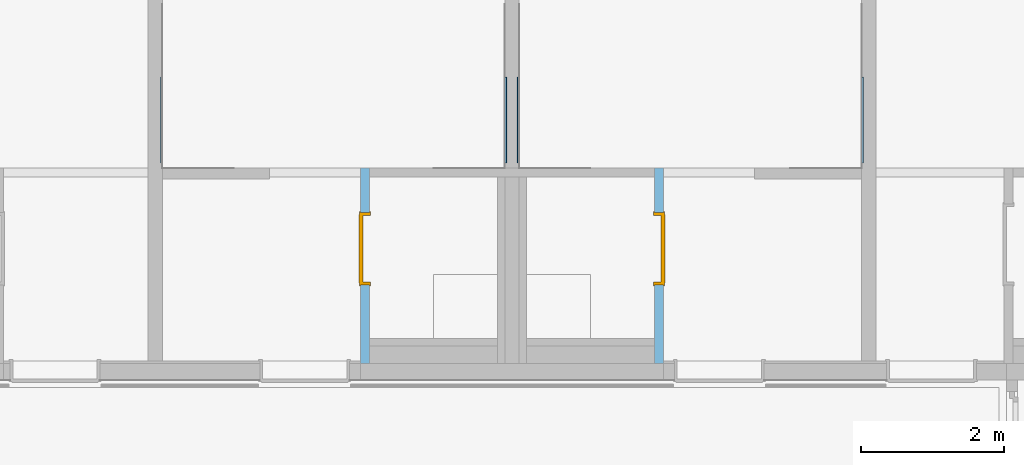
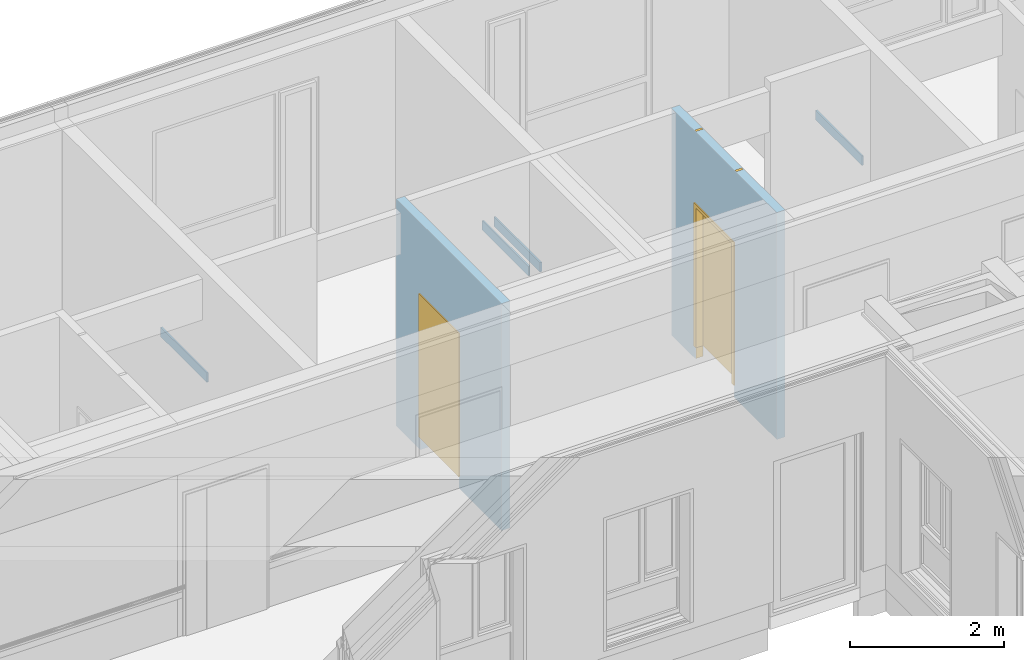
# One storey, part 112 of 207: 4 walls, 2 doors, 2 openings, plus 2 elements that do not belong to this part.
"""IFC4 building model written with IfcOpenShell, lengths in metres."""

from ifc_helpers import new_model, entity, si_unit, converted_unit, derived_unit, frame, frame_2d, origin, origin_with_axes, place, context, subcontext, project, spatial, polyline, rectangle, outline, extrude, faceted_brep, source, transform, mapped, material, type_object, element, fill, save


model = new_model("IFC4")

# Units and contexts
model_context = context("Model", 3, precision=1e-05, world=origin())
body_context = subcontext(model_context, "Body", "Model", "MODEL_VIEW")
ifc_project = project(units=[si_unit("LENGTHUNIT", "METRE"), si_unit("AREAUNIT", "SQUARE_METRE"), si_unit("VOLUMEUNIT", "CUBIC_METRE"), si_unit("MASSUNIT", "GRAM", prefix="KILO"), converted_unit("PLANEANGLEUNIT", "DEGREE", entity("IfcPlaneAngleMeasure", 0.0174532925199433), si_unit("PLANEANGLEUNIT", "RADIAN"), dimensions=[0, 0, 0, 0, 0, 0, 0]), derived_unit("THERMALTRANSMITTANCEUNIT", [(si_unit("POWERUNIT", "WATT"), 1), (si_unit("THERMODYNAMICTEMPERATUREUNIT", "KELVIN"), -1), (si_unit("LENGTHUNIT", "METRE"), -2)]), derived_unit("VOLUMETRICFLOWRATEUNIT", [(si_unit("LENGTHUNIT", "METRE"), 3), (converted_unit("TIMEUNIT", "hour", entity("IfcTimeMeasure", 3600.0), si_unit("TIMEUNIT", "SECOND"), dimensions=[0, 0, 1, 0, 0, 0, 0]), -1), (si_unit("LENGTHUNIT", "METRE"), -1)])], contexts=[model_context])

# Site, building, storey
site_placement = place(None, origin())
site = spatial("IfcSite", under=ifc_project, at=site_placement, Name="Psychiatrie Neubau Wunstorf", CompositionType="ELEMENT")
building_placement = place(site_placement, origin())
building = spatial("IfcBuilding", under=site, at=building_placement, Name="Neubau H2 Stationsgebäude", CompositionType="ELEMENT")
storey_placement = place(building_placement, frame((0.0, 0.0, -0.2)))
storey = spatial("IfcBuildingStorey", under=building, at=storey_placement, Name="H2 Ebene 0", CompositionType="ELEMENT", Elevation=-0.2)

# Wall, opening, door
ifc_material_1 = material(Name="WI-LB")
wall_1_placement = place(storey_placement, frame((22.875, 27.0895, 0.0), z_axis=(0.0, 0.0, 1.0), x_axis=(0.0, -1.0, 0.0)))
wall_1 = element("IfcWall", 1, at=wall_1_placement, inside=storey, material=ifc_material_1, context=body_context, shape_type="SweptSolid", body=[
    extrude(rectangle(XDim=2.73999999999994, YDim=0.125, at=frame_2d((1.36999999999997, 0.0625), x_axis=(1.0, 0.0))), origin_with_axes(), (0.0, 0.0, 1.0), 3.6),
])
opening_1_placement = place(wall_1_placement, frame((1.635, 0.125, 0.0), z_axis=(0.0, -1.0, 0.0), x_axis=(0.0, 0.0, 1.0)))
opening_1 = element("IfcOpeningElement", 2, at=opening_1_placement, cuts=wall_1, Name="Türöffnung", ObjectType="Opening", context=body_context, shape_type="SweptSolid", body=[
    extrude(outline(polyline([(2.46, 1.01), (2.46, 0.0), (0.0, 0.0), (0.0, 1.01), (2.46, 1.01)])), origin_with_axes(), (0.0, 0.0, 1.0), 0.125),
])
ifc_material_2 = material(Name="TI-1F-UZ-D-N")
door_type_1 = type_object("IfcDoorType", Name="SMT", OperationType="SINGLE_SWING_RIGHT", ParameterTakesPrecedence=False, PredefinedType="DOOR")
shared_shape_1 = source(origin_with_axes(), body_context, "Body", "Brep", [
    faceted_brep([(-0.0400000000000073, 0.0125000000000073, 0.0), (0.0, 0.0125000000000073, 0.0), (0.0, 0.112500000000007, 0.0), (-0.0400000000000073, 0.112500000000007, 0.0), (-0.0400000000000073, 0.112500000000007, 3.6), (0.0, 0.112500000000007, 3.6), (0.0, 0.0125000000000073, 3.6), (-0.0400000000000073, 0.0125000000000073, 3.6)], [[[0, 1, 2, 3]], [[4, 5, 6, 7]], [[3, 4, 7, 0]], [[2, 5, 4, 3]], [[1, 6, 5, 2]], [[0, 7, 6, 1]]], orient=[[False], [False], [False], [False], [False], [False]]),
    faceted_brep([(1.00999999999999, 0.0125000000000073, 0.0), (1.04999999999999, 0.0125000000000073, 0.0), (1.04999999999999, 0.112500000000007, 0.0), (1.00999999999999, 0.112500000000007, 0.0), (1.00999999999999, 0.112500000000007, 3.6), (1.04999999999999, 0.112500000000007, 3.6), (1.04999999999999, 0.0125000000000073, 3.6), (1.00999999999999, 0.0125000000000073, 3.6)], [[[0, 1, 2, 3]], [[4, 5, 6, 7]], [[3, 4, 7, 0]], [[2, 5, 4, 3]], [[1, 6, 5, 2]], [[0, 7, 6, 1]]], orient=[[False], [False], [False], [False], [False], [False]]),
    faceted_brep([(0.0, 0.0125000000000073, 2.46), (1.00999999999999, 0.0125000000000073, 2.46), (1.00999999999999, 0.112500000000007, 2.46), (0.0, 0.112500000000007, 2.46), (0.0, 0.112500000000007, 2.5), (1.00999999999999, 0.112500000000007, 2.5), (1.00999999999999, 0.0125000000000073, 2.5), (0.0, 0.0125000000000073, 2.5)], [[[0, 1, 2, 3]], [[4, 5, 6, 7]], [[3, 4, 7, 0]], [[2, 5, 4, 3]], [[1, 6, 5, 2]], [[0, 7, 6, 1]]], orient=[[False], [False], [False], [False], [False], [False]]),
])
shared_shape_2 = source(origin_with_axes(), body_context, "Body", "Brep", [
    faceted_brep([(0.0, -0.0149999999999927, 2.46), (0.0399999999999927, -0.0149999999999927, 2.46), (0.0399999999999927, -0.0149999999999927, 0.2), (0.0, -0.0149999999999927, 0.2), (0.0, 0.140000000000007, 0.2), (0.0399999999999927, 0.140000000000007, 0.2), (0.0399999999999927, 0.140000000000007, 2.46), (0.0, 0.140000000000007, 2.46)], [[[0, 1, 2, 3]], [[4, 5, 6, 7]], [[3, 4, 7, 0]], [[2, 5, 4, 3]], [[1, 6, 5, 2]], [[0, 7, 6, 1]]], orient=[[False], [False], [False], [False], [False], [False]]),
    faceted_brep([(0.0, -0.0149999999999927, 2.475), (0.0, -0.0149999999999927, 0.2), (-0.0150000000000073, -0.0149999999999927, 0.2), (-0.0150000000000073, -0.0149999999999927, 2.475), (0.0, 0.0, 0.2), (0.0, 0.0, 2.475), (-0.0150000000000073, 0.0, 2.475), (-0.0150000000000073, 0.0, 0.2)], [[[0, 1, 2, 3]], [[4, 5, 6, 7]], [[1, 0, 5, 4]], [[2, 1, 4, 7]], [[3, 2, 7, 6]], [[0, 3, 6, 5]]], orient=[[False], [False], [False], [False], [False], [False]]),
    faceted_brep([(0.0, 0.125000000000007, 2.475), (0.0, 0.125000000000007, 0.2), (-0.0150000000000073, 0.125000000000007, 0.2), (-0.0150000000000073, 0.125000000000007, 2.475), (0.0, 0.140000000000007, 0.2), (0.0, 0.140000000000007, 2.475), (-0.0150000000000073, 0.140000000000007, 2.475), (-0.0150000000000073, 0.140000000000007, 0.2)], [[[0, 1, 2, 3]], [[4, 5, 6, 7]], [[1, 0, 5, 4]], [[2, 1, 4, 7]], [[3, 2, 7, 6]], [[0, 3, 6, 5]]], orient=[[False], [False], [False], [False], [False], [False]]),
    faceted_brep([(0.969999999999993, -0.0149999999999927, 2.46), (1.00999999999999, -0.0149999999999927, 2.46), (1.00999999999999, -0.0149999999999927, 0.2), (0.969999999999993, -0.0149999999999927, 0.2), (0.969999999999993, 0.140000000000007, 0.2), (1.00999999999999, 0.140000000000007, 0.2), (1.00999999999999, 0.140000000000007, 2.46), (0.969999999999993, 0.140000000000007, 2.46)], [[[0, 1, 2, 3]], [[4, 5, 6, 7]], [[3, 4, 7, 0]], [[2, 5, 4, 3]], [[1, 6, 5, 2]], [[0, 7, 6, 1]]], orient=[[False], [False], [False], [False], [False], [False]]),
    faceted_brep([(1.00999999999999, -0.0149999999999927, 2.475), (1.02499999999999, -0.0149999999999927, 2.475), (1.02499999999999, -0.0149999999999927, 0.2), (1.00999999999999, -0.0149999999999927, 0.2), (1.00999999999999, 0.0, 0.2), (1.02499999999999, 0.0, 0.2), (1.02499999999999, 0.0, 2.475), (1.00999999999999, 0.0, 2.475)], [[[0, 1, 2, 3]], [[4, 5, 6, 7]], [[3, 4, 7, 0]], [[2, 5, 4, 3]], [[1, 6, 5, 2]], [[0, 7, 6, 1]]], orient=[[False], [False], [False], [False], [False], [False]]),
    faceted_brep([(1.00999999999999, 0.125000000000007, 2.475), (1.02499999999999, 0.125000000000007, 2.475), (1.02499999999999, 0.125000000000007, 0.2), (1.00999999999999, 0.125000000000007, 0.2), (1.00999999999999, 0.140000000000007, 0.2), (1.02499999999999, 0.140000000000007, 0.2), (1.02499999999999, 0.140000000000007, 2.475), (1.00999999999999, 0.140000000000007, 2.475)], [[[0, 1, 2, 3]], [[4, 5, 6, 7]], [[3, 4, 7, 0]], [[2, 5, 4, 3]], [[1, 6, 5, 2]], [[0, 7, 6, 1]]], orient=[[False], [False], [False], [False], [False], [False]]),
    faceted_brep([(0.0399999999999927, -0.0149999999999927, 2.46), (0.969999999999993, -0.0149999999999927, 2.46), (0.969999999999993, -0.0149999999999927, 2.42), (0.0399999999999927, -0.0149999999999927, 2.42), (0.0399999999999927, 0.140000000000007, 2.42), (0.969999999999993, 0.140000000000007, 2.42), (0.969999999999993, 0.140000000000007, 2.46), (0.0399999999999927, 0.140000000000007, 2.46)], [[[0, 1, 2, 3]], [[4, 5, 6, 7]], [[3, 4, 7, 0]], [[2, 5, 4, 3]], [[1, 6, 5, 2]], [[0, 7, 6, 1]]], orient=[[False], [False], [False], [False], [False], [False]]),
    faceted_brep([(0.0, -0.0149999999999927, 2.475), (1.00999999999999, -0.0149999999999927, 2.475), (1.00999999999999, -0.0149999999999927, 2.46), (0.0, -0.0149999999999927, 2.46), (0.0, 0.0, 2.46), (1.00999999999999, 0.0, 2.46), (1.00999999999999, 0.0, 2.475), (0.0, 0.0, 2.475)], [[[0, 1, 2, 3]], [[4, 5, 6, 7]], [[3, 4, 7, 0]], [[2, 5, 4, 3]], [[1, 6, 5, 2]], [[0, 7, 6, 1]]], orient=[[False], [False], [False], [False], [False], [False]]),
    faceted_brep([(0.0, 0.125000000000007, 2.475), (1.00999999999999, 0.125000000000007, 2.475), (1.00999999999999, 0.125000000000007, 2.46), (0.0, 0.125000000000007, 2.46), (0.0, 0.140000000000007, 2.46), (1.00999999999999, 0.140000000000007, 2.46), (1.00999999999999, 0.140000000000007, 2.475), (0.0, 0.140000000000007, 2.475)], [[[0, 1, 2, 3]], [[4, 5, 6, 7]], [[3, 4, 7, 0]], [[2, 5, 4, 3]], [[1, 6, 5, 2]], [[0, 7, 6, 1]]], orient=[[False], [False], [False], [False], [False], [False]]),
    faceted_brep([(0.0249999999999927, 0.0910000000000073, 2.435), (0.984999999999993, 0.0910000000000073, 2.435), (0.984999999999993, 0.0910000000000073, 0.2), (0.0249999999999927, 0.0910000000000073, 0.2), (0.0249999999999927, 0.141000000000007, 0.2), (0.984999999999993, 0.141000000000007, 0.2), (0.984999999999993, 0.141000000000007, 2.435), (0.0249999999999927, 0.141000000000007, 2.435)], [[[0, 1, 2, 3]], [[4, 5, 6, 7]], [[3, 4, 7, 0]], [[2, 5, 4, 3]], [[1, 6, 5, 2]], [[0, 7, 6, 1]]], orient=[[False], [False], [False], [False], [False], [False]]),
])
door_1_placement = place(opening_1_placement, frame((0.0, 0.0, 0.0), z_axis=(1.0, 0.0, 0.0), x_axis=(0.0, 1.0, 0.0)))
door_1 = element("IfcDoor", 3, at=door_1_placement, inside=storey, type_object=door_type_1, material=ifc_material_2, Name="SMT", OverallHeight=2.46, OverallWidth=1.01, context=body_context, shape_type="MappedRepresentation", body=[
    mapped(shared_shape_1, transform((0.0, 0.0, 0.0), x_axis=(1.0, 0.0, 0.0), y_axis=(0.0, 1.0, 0.0), z_axis=(0.0, 0.0, 1.0), scale=1.0)),
    mapped(shared_shape_2, transform((0.0, 0.0, 0.0), x_axis=(1.0, 0.0, 0.0), y_axis=(0.0, 1.0, 0.0), z_axis=(0.0, 0.0, 1.0), scale=1.0)),
])
fill(opening_1, door_1)

ifc_material_3 = material(Name="WI-LB")
wall_2_placement = place(storey_placement, frame((27.0, 27.0895, 0.0), z_axis=(0.0, 0.0, 1.0), x_axis=(0.0, -1.0, 0.0)))
wall_2 = element("IfcWall", 4, at=wall_2_placement, inside=storey, material=ifc_material_3, context=body_context, shape_type="SweptSolid", body=[
    extrude(rectangle(XDim=2.73999999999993, YDim=0.125, at=frame_2d((1.36999999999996, 0.0625), x_axis=(1.0, 0.0))), origin_with_axes(), (0.0, 0.0, 1.0), 3.6),
])
opening_2_placement = place(wall_2_placement, frame((0.625, 0.0, 0.0), z_axis=(0.0, 1.0, 0.0), x_axis=(0.0, 0.0, 1.0)))
opening_2 = element("IfcOpeningElement", 5, at=opening_2_placement, cuts=wall_2, Name="Türöffnung", ObjectType="Opening", context=body_context, shape_type="SweptSolid", body=[
    extrude(outline(polyline([(2.46, 1.01), (2.46, 0.0), (0.0, 0.0), (0.0, 1.01), (2.46, 1.01)])), origin_with_axes(), (0.0, 0.0, 1.0), 0.125),
])
ifc_material_4 = material(Name="TI-1F-UZ-D-N")
door_type_2 = type_object("IfcDoorType", Name="SMT", OperationType="SINGLE_SWING_RIGHT", ParameterTakesPrecedence=False, PredefinedType="DOOR")
shared_shape_3 = source(origin_with_axes(), body_context, "Body", "Brep", [
    faceted_brep([(-0.0399999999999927, 0.0124999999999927, 0.0), (0.0, 0.0124999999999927, 0.0), (0.0, 0.112499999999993, 0.0), (-0.0399999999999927, 0.112499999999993, 0.0), (-0.0399999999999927, 0.112499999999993, 3.6), (0.0, 0.112499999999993, 3.6), (0.0, 0.0124999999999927, 3.6), (-0.0399999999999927, 0.0124999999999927, 3.6)], [[[0, 1, 2, 3]], [[4, 5, 6, 7]], [[3, 4, 7, 0]], [[2, 5, 4, 3]], [[1, 6, 5, 2]], [[0, 7, 6, 1]]], orient=[[False], [False], [False], [False], [False], [False]]),
    faceted_brep([(1.01000000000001, 0.0124999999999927, 0.0), (1.05000000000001, 0.0124999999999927, 0.0), (1.05000000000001, 0.112499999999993, 0.0), (1.01000000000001, 0.112499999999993, 0.0), (1.01000000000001, 0.112499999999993, 3.6), (1.05000000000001, 0.112499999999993, 3.6), (1.05000000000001, 0.0124999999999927, 3.6), (1.01000000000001, 0.0124999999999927, 3.6)], [[[0, 1, 2, 3]], [[4, 5, 6, 7]], [[3, 4, 7, 0]], [[2, 5, 4, 3]], [[1, 6, 5, 2]], [[0, 7, 6, 1]]], orient=[[False], [False], [False], [False], [False], [False]]),
    faceted_brep([(0.0, 0.0124999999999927, 2.46), (1.01000000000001, 0.0124999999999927, 2.46), (1.01000000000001, 0.112499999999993, 2.46), (0.0, 0.112499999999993, 2.46), (0.0, 0.112499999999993, 2.5), (1.01000000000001, 0.112499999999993, 2.5), (1.01000000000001, 0.0124999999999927, 2.5), (0.0, 0.0124999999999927, 2.5)], [[[0, 1, 2, 3]], [[4, 5, 6, 7]], [[3, 4, 7, 0]], [[2, 5, 4, 3]], [[1, 6, 5, 2]], [[0, 7, 6, 1]]], orient=[[False], [False], [False], [False], [False], [False]]),
])
shared_shape_4 = source(origin_with_axes(), body_context, "Body", "Brep", [
    faceted_brep([(1.01000000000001, -0.0150000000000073, 2.46), (1.01000000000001, -0.0150000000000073, 0.2), (0.970000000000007, -0.0150000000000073, 0.2), (0.970000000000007, -0.0150000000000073, 2.46), (1.01000000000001, 0.139999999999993, 0.2), (1.01000000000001, 0.139999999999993, 2.46), (0.970000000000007, 0.139999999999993, 2.46), (0.970000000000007, 0.139999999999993, 0.2)], [[[0, 1, 2, 3]], [[4, 5, 6, 7]], [[1, 0, 5, 4]], [[2, 1, 4, 7]], [[3, 2, 7, 6]], [[0, 3, 6, 5]]], orient=[[False], [False], [False], [False], [False], [False]]),
    faceted_brep([(1.01000000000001, -0.0150000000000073, 2.475), (1.02500000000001, -0.0150000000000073, 2.475), (1.02500000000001, -0.0150000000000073, 0.2), (1.01000000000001, -0.0150000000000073, 0.2), (1.01000000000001, 0.0, 0.2), (1.02500000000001, 0.0, 0.2), (1.02500000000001, 0.0, 2.475), (1.01000000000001, 0.0, 2.475)], [[[0, 1, 2, 3]], [[4, 5, 6, 7]], [[3, 4, 7, 0]], [[2, 5, 4, 3]], [[1, 6, 5, 2]], [[0, 7, 6, 1]]], orient=[[False], [False], [False], [False], [False], [False]]),
    faceted_brep([(1.01000000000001, 0.124999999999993, 2.475), (1.02500000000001, 0.124999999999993, 2.475), (1.02500000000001, 0.124999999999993, 0.2), (1.01000000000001, 0.124999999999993, 0.2), (1.01000000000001, 0.139999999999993, 0.2), (1.02500000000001, 0.139999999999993, 0.2), (1.02500000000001, 0.139999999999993, 2.475), (1.01000000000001, 0.139999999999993, 2.475)], [[[0, 1, 2, 3]], [[4, 5, 6, 7]], [[3, 4, 7, 0]], [[2, 5, 4, 3]], [[1, 6, 5, 2]], [[0, 7, 6, 1]]], orient=[[False], [False], [False], [False], [False], [False]]),
    faceted_brep([(0.0400000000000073, -0.0150000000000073, 2.46), (0.0400000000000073, -0.0150000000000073, 0.2), (0.0, -0.0150000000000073, 0.2), (0.0, -0.0150000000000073, 2.46), (0.0400000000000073, 0.139999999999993, 0.2), (0.0400000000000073, 0.139999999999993, 2.46), (0.0, 0.139999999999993, 2.46), (0.0, 0.139999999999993, 0.2)], [[[0, 1, 2, 3]], [[4, 5, 6, 7]], [[1, 0, 5, 4]], [[2, 1, 4, 7]], [[3, 2, 7, 6]], [[0, 3, 6, 5]]], orient=[[False], [False], [False], [False], [False], [False]]),
    faceted_brep([(0.0, -0.0150000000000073, 2.475), (0.0, -0.0150000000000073, 0.2), (-0.0149999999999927, -0.0150000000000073, 0.2), (-0.0149999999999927, -0.0150000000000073, 2.475), (0.0, 0.0, 0.2), (0.0, 0.0, 2.475), (-0.0149999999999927, 0.0, 2.475), (-0.0149999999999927, 0.0, 0.2)], [[[0, 1, 2, 3]], [[4, 5, 6, 7]], [[1, 0, 5, 4]], [[2, 1, 4, 7]], [[3, 2, 7, 6]], [[0, 3, 6, 5]]], orient=[[False], [False], [False], [False], [False], [False]]),
    faceted_brep([(0.0, 0.124999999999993, 2.475), (0.0, 0.124999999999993, 0.2), (-0.0149999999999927, 0.124999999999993, 0.2), (-0.0149999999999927, 0.124999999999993, 2.475), (0.0, 0.139999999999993, 0.2), (0.0, 0.139999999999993, 2.475), (-0.0149999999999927, 0.139999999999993, 2.475), (-0.0149999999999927, 0.139999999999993, 0.2)], [[[0, 1, 2, 3]], [[4, 5, 6, 7]], [[1, 0, 5, 4]], [[2, 1, 4, 7]], [[3, 2, 7, 6]], [[0, 3, 6, 5]]], orient=[[False], [False], [False], [False], [False], [False]]),
    faceted_brep([(0.970000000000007, -0.0150000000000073, 2.46), (0.970000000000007, -0.0150000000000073, 2.42), (0.0400000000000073, -0.0150000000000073, 2.42), (0.0400000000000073, -0.0150000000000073, 2.46), (0.970000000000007, 0.139999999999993, 2.42), (0.970000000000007, 0.139999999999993, 2.46), (0.0400000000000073, 0.139999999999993, 2.46), (0.0400000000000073, 0.139999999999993, 2.42)], [[[0, 1, 2, 3]], [[4, 5, 6, 7]], [[1, 0, 5, 4]], [[2, 1, 4, 7]], [[3, 2, 7, 6]], [[0, 3, 6, 5]]], orient=[[False], [False], [False], [False], [False], [False]]),
    faceted_brep([(1.01000000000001, -0.0150000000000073, 2.475), (1.01000000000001, -0.0150000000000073, 2.46), (0.0, -0.0150000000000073, 2.46), (0.0, -0.0150000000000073, 2.475), (1.01000000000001, 0.0, 2.46), (1.01000000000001, 0.0, 2.475), (0.0, 0.0, 2.475), (0.0, 0.0, 2.46)], [[[0, 1, 2, 3]], [[4, 5, 6, 7]], [[1, 0, 5, 4]], [[2, 1, 4, 7]], [[3, 2, 7, 6]], [[0, 3, 6, 5]]], orient=[[False], [False], [False], [False], [False], [False]]),
    faceted_brep([(1.01000000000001, 0.124999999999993, 2.475), (1.01000000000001, 0.124999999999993, 2.46), (0.0, 0.124999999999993, 2.46), (0.0, 0.124999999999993, 2.475), (1.01000000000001, 0.139999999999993, 2.46), (1.01000000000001, 0.139999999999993, 2.475), (0.0, 0.139999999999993, 2.475), (0.0, 0.139999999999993, 2.46)], [[[0, 1, 2, 3]], [[4, 5, 6, 7]], [[1, 0, 5, 4]], [[2, 1, 4, 7]], [[3, 2, 7, 6]], [[0, 3, 6, 5]]], orient=[[False], [False], [False], [False], [False], [False]]),
    faceted_brep([(0.985000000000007, 0.0909999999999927, 2.435), (0.985000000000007, 0.0909999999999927, 0.2), (0.0250000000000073, 0.0909999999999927, 0.2), (0.0250000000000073, 0.0909999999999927, 2.435), (0.985000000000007, 0.140999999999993, 0.2), (0.985000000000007, 0.140999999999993, 2.435), (0.0250000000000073, 0.140999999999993, 2.435), (0.0250000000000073, 0.140999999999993, 0.2)], [[[0, 1, 2, 3]], [[4, 5, 6, 7]], [[1, 0, 5, 4]], [[2, 1, 4, 7]], [[3, 2, 7, 6]], [[0, 3, 6, 5]]], orient=[[False], [False], [False], [False], [False], [False]]),
])
door_2_placement = place(opening_2_placement, frame((0.0, 0.0, 0.0), z_axis=(1.0, 0.0, 0.0), x_axis=(0.0, 1.0, 0.0)))
door_2 = element("IfcDoor", 6, at=door_2_placement, inside=storey, type_object=door_type_2, material=ifc_material_4, Name="SMT", OverallHeight=2.46, OverallWidth=1.01, context=body_context, shape_type="MappedRepresentation", body=[
    mapped(shared_shape_3, transform((0.0, 0.0, 0.0), x_axis=(1.0, 0.0, 0.0), y_axis=(0.0, 1.0, 0.0), z_axis=(0.0, 0.0, 1.0), scale=1.0)),
    mapped(shared_shape_4, transform((0.0, 0.0, 0.0), x_axis=(1.0, 0.0, 0.0), y_axis=(0.0, 1.0, 0.0), z_axis=(0.0, 0.0, 1.0), scale=1.0)),
])
fill(opening_2, door_2)

# Walls
for number, where, name in (
    (7, (20.075, 27.1628367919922, 1.625), "WV 1.1"),
    (8, (24.9, 27.1628367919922, 1.625), "WV 1.1"),
    (9, (25.075, 27.1628367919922, 1.625), "WV 1.1"),
    (10, (29.9, 27.1628367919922, 1.625), "WV 1.1"),
):
    element("IfcWall", number, at=place(storey_placement, frame(where)), inside=storey, Name=name, context=body_context, shape_type="Brep", body=[
        faceted_brep([(0.025, 1.2, 0.0), (0.0, 1.2, 0.0), (0.0, 0.0, 0.0), (0.025, 0.0, 0.0), (0.0, 1.2, 0.15), (0.025, 1.2, 0.15), (0.025, 0.0, 0.15), (0.0, 0.0, 0.15)], [[[0, 1, 2, 3]], [[4, 5, 6, 7]], [[1, 0, 5, 4]], [[2, 1, 4, 7]], [[3, 2, 7, 6]], [[0, 3, 6, 5]]], orient=[[False], [False], [False], [False], [False], [False]]),
    ])

save(model, "model.ifc")
